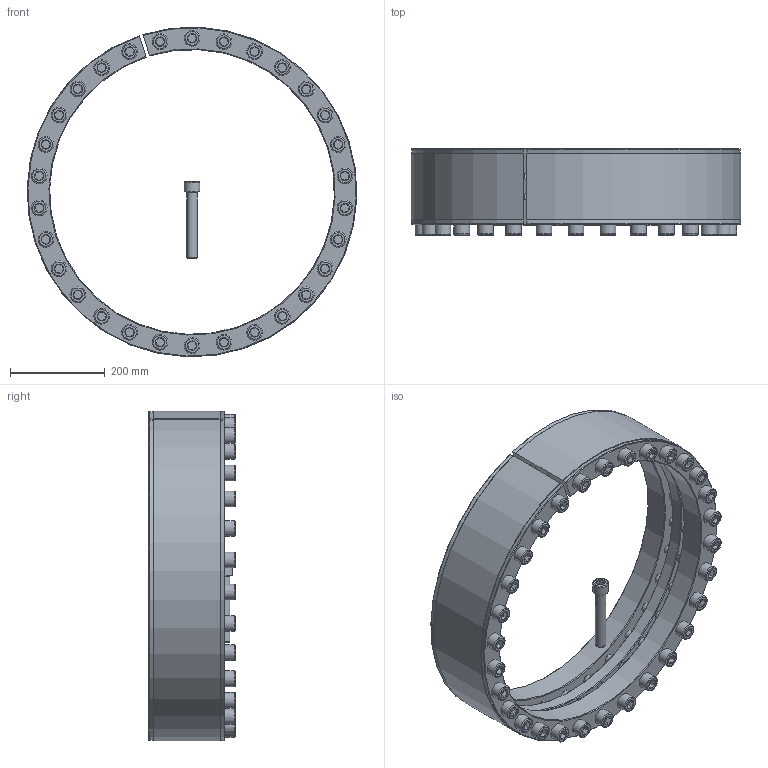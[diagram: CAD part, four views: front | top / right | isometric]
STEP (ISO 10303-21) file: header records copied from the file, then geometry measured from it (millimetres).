
FILE_DESCRIPTION( ( 'Unknown' ), '1' );
FILE_NAME( 'C:/Users/Frank/Eigene Daten/CAD/Solid Edge/KBK Karpstein/KBS Layout Baureihen/KBS 18/KBS 18 - 600 x 695.stp', 'Unknown', ( 'Unknown' ), ( 'Unknown' ), 'XStep 1.0', 'Unknown', ' ' );
FILE_SCHEMA( ( 'automotive_design' ) );
Length unit declared in the file: millimetre
Products named in the file (3): Assem1; ISO EN DIN 4762 M22x140; KBS 18 - 600 x 695
Bounding box: 694.6 x 182 x 694.45 mm (x, y, z)
Volume: 24857195.4 mm3; surface area: 3100822.7 mm2
Topology: 33 solids, 33 shells, 1007 faces, 2089 edges, 1272 vertices
Faces by surface type: plane 392, cylinder 312, cone 241, torus 62
Full cylindrical faces by diameter (mm): 18 x31, 19.294 x60, 22 x62, 24 x120, 33 x31
Entity records: 5670 total; most frequent: CARTESIAN_POINT 853, DIRECTION 824, ORIENTED_EDGE 574, EDGE_LOOP 422, AXIS2_PLACEMENT_3D 394, EDGE_CURVE 287, VERTEX_POINT 251, FACE_OUTER_BOUND 237
